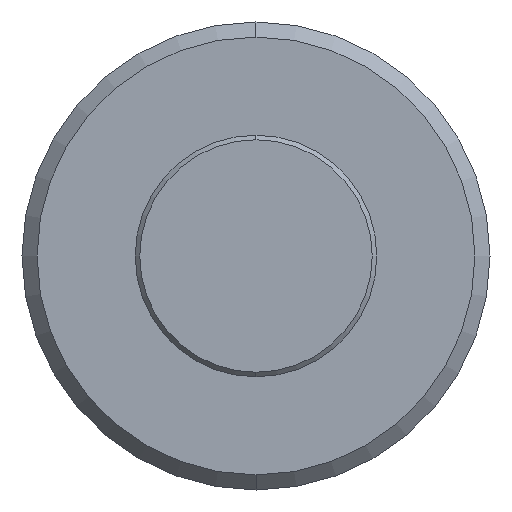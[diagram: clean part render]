
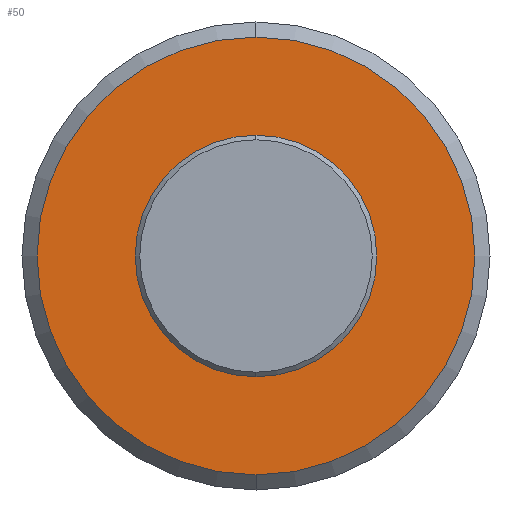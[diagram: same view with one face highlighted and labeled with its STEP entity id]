
A CAD part, left-side view. The second image highlights one B-rep face of the part: STEP entity #50.
In plain terms, the highlighted planar face has unit normal (-1, 0, 0).
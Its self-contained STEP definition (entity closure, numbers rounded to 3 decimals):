
#12 = EDGE_CURVE ( 'NONE', #195, #625, #141, .T. ) ;
#28 = EDGE_LOOP ( 'NONE', ( #360, #238 ) ) ;
#43 = CARTESIAN_POINT ( 'NONE',  ( -24.026, 0., 0. ) ) ;
#50 = ADVANCED_FACE ( 'NONE', ( #412, #455 ), #186, .F. ) ;
#51 = CIRCLE ( 'NONE', #483, 14.5 ) ;
#52 = CARTESIAN_POINT ( 'NONE',  ( -24.026, 8., 0. ) ) ;
#59 = AXIS2_PLACEMENT_3D ( 'NONE', #52, #493, #136 ) ;
#76 = VERTEX_POINT ( 'NONE', #291 ) ;
#80 = CARTESIAN_POINT ( 'NONE',  ( -24.026, 0., -8. ) ) ;
#99 = DIRECTION ( 'NONE',  ( 0., 0., 1. ) ) ;
#108 = AXIS2_PLACEMENT_3D ( 'NONE', #148, #452, #99 ) ;
#121 = VERTEX_POINT ( 'NONE', #285 ) ;
#124 = EDGE_LOOP ( 'NONE', ( #530, #249 ) ) ;
#136 = DIRECTION ( 'NONE',  ( 0., 0., -1. ) ) ;
#141 = CIRCLE ( 'NONE', #536, 8. ) ;
#148 = CARTESIAN_POINT ( 'NONE',  ( -24.026, 0., 0. ) ) ;
#186 = PLANE ( 'NONE',  #59 ) ;
#195 = VERTEX_POINT ( 'NONE', #80 ) ;
#238 = ORIENTED_EDGE ( 'NONE', *, *, #12, .F. ) ;
#243 = DIRECTION ( 'NONE',  ( 0., 0., 1. ) ) ;
#249 = ORIENTED_EDGE ( 'NONE', *, *, #631, .T. ) ;
#278 = AXIS2_PLACEMENT_3D ( 'NONE', #355, #602, #243 ) ;
#285 = CARTESIAN_POINT ( 'NONE',  ( -24.026, 0., 14.5 ) ) ;
#291 = CARTESIAN_POINT ( 'NONE',  ( -24.026, 0., -14.5 ) ) ;
#298 = DIRECTION ( 'NONE',  ( -1., 0., 0. ) ) ;
#344 = CIRCLE ( 'NONE', #278, 8. ) ;
#355 = CARTESIAN_POINT ( 'NONE',  ( -24.026, 0., 0. ) ) ;
#360 = ORIENTED_EDGE ( 'NONE', *, *, #531, .F. ) ;
#384 = DIRECTION ( 'NONE',  ( -1., 0., 0. ) ) ;
#412 = FACE_BOUND ( 'NONE', #28, .T. ) ;
#452 = DIRECTION ( 'NONE',  ( -1., 0., 0. ) ) ;
#455 = FACE_OUTER_BOUND ( 'NONE', #124, .T. ) ;
#483 = AXIS2_PLACEMENT_3D ( 'NONE', #43, #384, #486 ) ;
#486 = DIRECTION ( 'NONE',  ( 0., 0., 1. ) ) ;
#493 = DIRECTION ( 'NONE',  ( 1., 0., 0. ) ) ;
#500 = CARTESIAN_POINT ( 'NONE',  ( -24.026, 0., 8. ) ) ;
#505 = CIRCLE ( 'NONE', #108, 14.5 ) ;
#519 = EDGE_CURVE ( 'NONE', #76, #121, #505, .T. ) ;
#530 = ORIENTED_EDGE ( 'NONE', *, *, #519, .T. ) ;
#531 = EDGE_CURVE ( 'NONE', #625, #195, #344, .T. ) ;
#536 = AXIS2_PLACEMENT_3D ( 'NONE', #579, #298, #596 ) ;
#579 = CARTESIAN_POINT ( 'NONE',  ( -24.026, 0., 0. ) ) ;
#596 = DIRECTION ( 'NONE',  ( 0., 0., 1. ) ) ;
#602 = DIRECTION ( 'NONE',  ( -1., 0., 0. ) ) ;
#625 = VERTEX_POINT ( 'NONE', #500 ) ;
#631 = EDGE_CURVE ( 'NONE', #121, #76, #51, .T. ) ;
